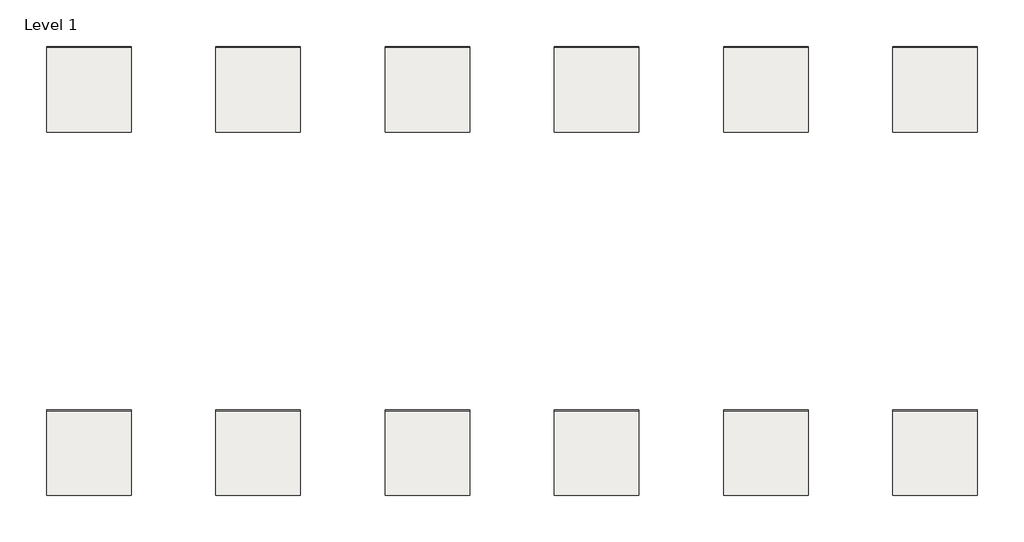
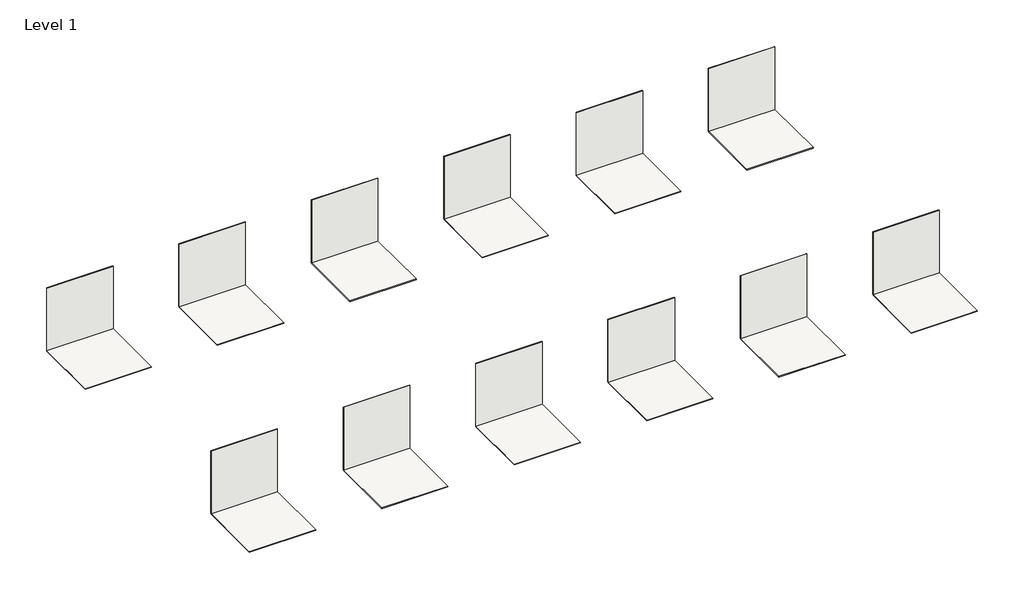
# One storey: 24 coverings.
"""IFC4 building model written with IfcOpenShell, lengths in millimetres."""

from ifc_helpers import new_model, si_unit, frame, origin, origin_with_axes, place, context, project, spatial, polyline, outline, extrude, element, save

model = new_model("IFC4")

# Units and contexts
model_context = context("Model", 3, world=origin())
ifc_project = project(units=[si_unit("LENGTHUNIT", "METRE", prefix="MILLI")], contexts=[model_context])

# Site, building, storey
site = spatial("IfcSite", under=ifc_project)
building = spatial("IfcBuilding", under=site)
storey = spatial("IfcBuildingStorey", under=building, Name="Level 1", Elevation=0.0)

# Coverings
placement = place(None, origin())
element("IfcCovering", 1, ObjectType="REVIGRÉS-OMNISTONE-HEXAGON-60X60-MATTRECT-BONE", at=placement, inside=storey, context=model_context, shape_type="SweptSolid", body=[
    extrude(outline(polyline([(61108.2238844, 17811.2034686), (60108.2238844, 17811.2034686), (60108.2238844, 18811.2034686), (61108.2238844, 18811.2034686), (61108.2238844, 17811.2034686)])), frame((0.0, 0.0, -9.8), z_axis=(0.0, 0.0, 1.0), x_axis=(1.0, 0.0, 0.0)), (0.0, 0.0, 1.0), 9.8),
])
element("IfcCovering", 2, ObjectType="REVIGRÉS-OMNISTONE-HEXAGON-60X60-SOFT-BONE", at=placement, inside=storey, context=model_context, shape_type="SweptSolid", body=[
    extrude(outline(polyline([(63108.2238844, 17811.2034686), (62108.2238844, 17811.2034686), (62108.2238844, 18811.2034686), (63108.2238844, 18811.2034686), (63108.2238844, 17811.2034686)])), frame((0.0, 0.0, -9.8), z_axis=(0.0, 0.0, 1.0), x_axis=(1.0, 0.0, 0.0)), (0.0, 0.0, 1.0), 9.8),
])
element("IfcCovering", 3, ObjectType="REVIGRÉS-OMNISTONE-HEXAGON-60X60-MATTRECT-BONE", at=placement, inside=storey, context=model_context, shape_type="SweptSolid", body=[
    extrude(outline(polyline([(61108.2238844, 18811.2034686), (60108.2238844, 18811.2034686), (60108.2238844, 18821.0034686), (61108.2238844, 18821.0034686), (61108.2238844, 18811.2034686)])), origin_with_axes(), (0.0, 0.0, 1.0), 1000.0),
])
element("IfcCovering", 4, ObjectType="REVIGRÉS-OMNISTONE-HEXAGON-60X60-SOFT-BONE", at=placement, inside=storey, context=model_context, shape_type="SweptSolid", body=[
    extrude(outline(polyline([(63108.2238844, 18811.2034686), (62108.2238844, 18811.2034686), (62108.2238844, 18821.0034686), (63108.2238844, 18821.0034686), (63108.2238844, 18811.2034686)])), origin_with_axes(), (0.0, 0.0, 1.0), 1000.0),
])
element("IfcCovering", 5, ObjectType="REVIGRÉS-OMNISTONE-HEXAGON-60X60-MATTRECT-ICE", at=placement, inside=storey, context=model_context, shape_type="SweptSolid", body=[
    extrude(outline(polyline([(65108.2238844, 17811.2034686), (64108.2238844, 17811.2034686), (64108.2238844, 18811.2034686), (65108.2238844, 18811.2034686), (65108.2238844, 17811.2034686)])), frame((0.0, 0.0, -9.8), z_axis=(0.0, 0.0, 1.0), x_axis=(1.0, 0.0, 0.0)), (0.0, 0.0, 1.0), 9.8),
])
element("IfcCovering", 6, ObjectType="REVIGRÉS-OMNISTONE-HEXAGON-60X60-SOFT-ICE", at=placement, inside=storey, context=model_context, shape_type="SweptSolid", body=[
    extrude(outline(polyline([(67108.2238844, 17811.2034686), (66108.2238844, 17811.2034686), (66108.2238844, 18811.2034686), (67108.2238844, 18811.2034686), (67108.2238844, 17811.2034686)])), frame((0.0, 0.0, -9.8), z_axis=(0.0, 0.0, 1.0), x_axis=(1.0, 0.0, 0.0)), (0.0, 0.0, 1.0), 9.8),
])
element("IfcCovering", 7, ObjectType="REVIGRÉS-OMNISTONE-HEXAGON-60X60-MATTRECT-ICE", at=placement, inside=storey, context=model_context, shape_type="SweptSolid", body=[
    extrude(outline(polyline([(65108.2238844, 18811.2034686), (64108.2238844, 18811.2034686), (64108.2238844, 18821.0034686), (65108.2238844, 18821.0034686), (65108.2238844, 18811.2034686)])), origin_with_axes(), (0.0, 0.0, 1.0), 1000.0),
])
element("IfcCovering", 8, ObjectType="REVIGRÉS-OMNISTONE-HEXAGON-60X60-SOFT-ICE", at=placement, inside=storey, context=model_context, shape_type="SweptSolid", body=[
    extrude(outline(polyline([(67108.2238844, 18811.2034686), (66108.2238844, 18811.2034686), (66108.2238844, 18821.0034686), (67108.2238844, 18821.0034686), (67108.2238844, 18811.2034686)])), origin_with_axes(), (0.0, 0.0, 1.0), 1000.0),
])
element("IfcCovering", 9, ObjectType="REVIGRÉS-OMNISTONE-HEXAGON-60X60-MATTRECT-IRON", at=placement, inside=storey, context=model_context, shape_type="SweptSolid", body=[
    extrude(outline(polyline([(69108.2238844, 17811.2034686), (68108.2238844, 17811.2034686), (68108.2238844, 18811.2034686), (69108.2238844, 18811.2034686), (69108.2238844, 17811.2034686)])), frame((0.0, 0.0, -9.8), z_axis=(0.0, 0.0, 1.0), x_axis=(1.0, 0.0, 0.0)), (0.0, 0.0, 1.0), 9.8),
])
element("IfcCovering", 10, ObjectType="REVIGRÉS-OMNISTONE-HEXAGON-60X60-SOFT-IRON", at=placement, inside=storey, context=model_context, shape_type="SweptSolid", body=[
    extrude(outline(polyline([(71108.2238844, 17811.2034686), (70108.2238844, 17811.2034686), (70108.2238844, 18811.2034686), (71108.2238844, 18811.2034686), (71108.2238844, 17811.2034686)])), frame((0.0, 0.0, -9.8), z_axis=(0.0, 0.0, 1.0), x_axis=(1.0, 0.0, 0.0)), (0.0, 0.0, 1.0), 9.8),
])
element("IfcCovering", 11, ObjectType="REVIGRÉS-OMNISTONE-HEXAGON-60X60-MATTRECT-IRON", at=placement, inside=storey, context=model_context, shape_type="SweptSolid", body=[
    extrude(outline(polyline([(69108.2238844, 18811.2034686), (68108.2238844, 18811.2034686), (68108.2238844, 18821.0034686), (69108.2238844, 18821.0034686), (69108.2238844, 18811.2034686)])), origin_with_axes(), (0.0, 0.0, 1.0), 1000.0),
])
element("IfcCovering", 12, ObjectType="REVIGRÉS-OMNISTONE-HEXAGON-60X60-SOFT-IRON", at=placement, inside=storey, context=model_context, shape_type="SweptSolid", body=[
    extrude(outline(polyline([(71108.2238844, 18811.2034686), (70108.2238844, 18811.2034686), (70108.2238844, 18821.0034686), (71108.2238844, 18821.0034686), (71108.2238844, 18811.2034686)])), origin_with_axes(), (0.0, 0.0, 1.0), 1000.0),
])
element("IfcCovering", 13, ObjectType="REVIGRÉS-OMNISTONE-HEXAGON-60X60-MATTRECT-JET", at=placement, inside=storey, context=model_context, shape_type="SweptSolid", body=[
    extrude(outline(polyline([(61108.2238844, 13511.2034686), (60108.2238844, 13511.2034686), (60108.2238844, 14511.2034686), (61108.2238844, 14511.2034686), (61108.2238844, 13511.2034686)])), frame((0.0, 0.0, -9.8), z_axis=(0.0, 0.0, 1.0), x_axis=(1.0, 0.0, 0.0)), (0.0, 0.0, 1.0), 9.8),
])
element("IfcCovering", 14, ObjectType="REVIGRÉS-OMNISTONE-HEXAGON-60X60-SOFT-JET", at=placement, inside=storey, context=model_context, shape_type="SweptSolid", body=[
    extrude(outline(polyline([(63108.2238844, 13511.2034686), (62108.2238844, 13511.2034686), (62108.2238844, 14511.2034686), (63108.2238844, 14511.2034686), (63108.2238844, 13511.2034686)])), frame((0.0, 0.0, -9.8), z_axis=(0.0, 0.0, 1.0), x_axis=(1.0, 0.0, 0.0)), (0.0, 0.0, 1.0), 9.8),
])
element("IfcCovering", 15, ObjectType="REVIGRÉS-OMNISTONE-HEXAGON-60X60-MATTRECT-JET", at=placement, inside=storey, context=model_context, shape_type="SweptSolid", body=[
    extrude(outline(polyline([(61108.2238844, 14511.2034686), (60108.2238844, 14511.2034686), (60108.2238844, 14521.0034686), (61108.2238844, 14521.0034686), (61108.2238844, 14511.2034686)])), origin_with_axes(), (0.0, 0.0, 1.0), 1000.0),
])
element("IfcCovering", 16, ObjectType="REVIGRÉS-OMNISTONE-HEXAGON-60X60-SOFT-JET", at=placement, inside=storey, context=model_context, shape_type="SweptSolid", body=[
    extrude(outline(polyline([(63108.2238844, 14511.2034686), (62108.2238844, 14511.2034686), (62108.2238844, 14521.0034686), (63108.2238844, 14521.0034686), (63108.2238844, 14511.2034686)])), origin_with_axes(), (0.0, 0.0, 1.0), 1000.0),
])
element("IfcCovering", 17, ObjectType="REVIGRÉS-OMNISTONE-HEXAGON-60X60-MATTRECT-PLATINA", at=placement, inside=storey, context=model_context, shape_type="SweptSolid", body=[
    extrude(outline(polyline([(65108.2238844, 13511.2034686), (64108.2238844, 13511.2034686), (64108.2238844, 14511.2034686), (65108.2238844, 14511.2034686), (65108.2238844, 13511.2034686)])), frame((0.0, 0.0, -9.8), z_axis=(0.0, 0.0, 1.0), x_axis=(1.0, 0.0, 0.0)), (0.0, 0.0, 1.0), 9.8),
])
element("IfcCovering", 18, ObjectType="REVIGRÉS-OMNISTONE-HEXAGON-60X60-SOFT-PLATINA", at=placement, inside=storey, context=model_context, shape_type="SweptSolid", body=[
    extrude(outline(polyline([(67108.2238844, 13511.2034686), (66108.2238844, 13511.2034686), (66108.2238844, 14511.2034686), (67108.2238844, 14511.2034686), (67108.2238844, 13511.2034686)])), frame((0.0, 0.0, -9.8), z_axis=(0.0, 0.0, 1.0), x_axis=(1.0, 0.0, 0.0)), (0.0, 0.0, 1.0), 9.8),
])
element("IfcCovering", 19, ObjectType="REVIGRÉS-OMNISTONE-HEXAGON-60X60-MATTRECT-PLATINA", at=placement, inside=storey, context=model_context, shape_type="SweptSolid", body=[
    extrude(outline(polyline([(65108.2238844, 14511.2034686), (64108.2238844, 14511.2034686), (64108.2238844, 14521.0034686), (65108.2238844, 14521.0034686), (65108.2238844, 14511.2034686)])), origin_with_axes(), (0.0, 0.0, 1.0), 1000.0),
])
element("IfcCovering", 20, ObjectType="REVIGRÉS-OMNISTONE-HEXAGON-60X60-SOFT-PLATINA", at=placement, inside=storey, context=model_context, shape_type="SweptSolid", body=[
    extrude(outline(polyline([(67108.2238844, 14511.2034686), (66108.2238844, 14511.2034686), (66108.2238844, 14521.0034686), (67108.2238844, 14521.0034686), (67108.2238844, 14511.2034686)])), origin_with_axes(), (0.0, 0.0, 1.0), 1000.0),
])
element("IfcCovering", 21, ObjectType="REVIGRÉS-OMNISTONE-HEXAGON-60X60-MATTRECT-ROPE", at=placement, inside=storey, context=model_context, shape_type="SweptSolid", body=[
    extrude(outline(polyline([(69108.2238844, 13511.2034686), (68108.2238844, 13511.2034686), (68108.2238844, 14511.2034686), (69108.2238844, 14511.2034686), (69108.2238844, 13511.2034686)])), frame((0.0, 0.0, -9.8), z_axis=(0.0, 0.0, 1.0), x_axis=(1.0, 0.0, 0.0)), (0.0, 0.0, 1.0), 9.8),
])
element("IfcCovering", 22, ObjectType="REVIGRÉS-OMNISTONE-HEXAGON-60X60-SOFT-ROPE", at=placement, inside=storey, context=model_context, shape_type="SweptSolid", body=[
    extrude(outline(polyline([(71108.2238844, 13511.2034686), (70108.2238844, 13511.2034686), (70108.2238844, 14511.2034686), (71108.2238844, 14511.2034686), (71108.2238844, 13511.2034686)])), frame((0.0, 0.0, -9.8), z_axis=(0.0, 0.0, 1.0), x_axis=(1.0, 0.0, 0.0)), (0.0, 0.0, 1.0), 9.8),
])
element("IfcCovering", 23, ObjectType="REVIGRÉS-OMNISTONE-HEXAGON-60X60-MATTRECT-ROPE", at=placement, inside=storey, context=model_context, shape_type="SweptSolid", body=[
    extrude(outline(polyline([(69108.2238844, 14511.2034686), (68108.2238844, 14511.2034686), (68108.2238844, 14521.0034686), (69108.2238844, 14521.0034686), (69108.2238844, 14511.2034686)])), origin_with_axes(), (0.0, 0.0, 1.0), 1000.0),
])
element("IfcCovering", 24, ObjectType="REVIGRÉS-OMNISTONE-HEXAGON-60X60-SOFT-ROPE", at=placement, inside=storey, context=model_context, shape_type="SweptSolid", body=[
    extrude(outline(polyline([(71108.2238844, 14511.2034686), (70108.2238844, 14511.2034686), (70108.2238844, 14521.0034686), (71108.2238844, 14521.0034686), (71108.2238844, 14511.2034686)])), origin_with_axes(), (0.0, 0.0, 1.0), 1000.0),
])

save(model, "model.ifc")
